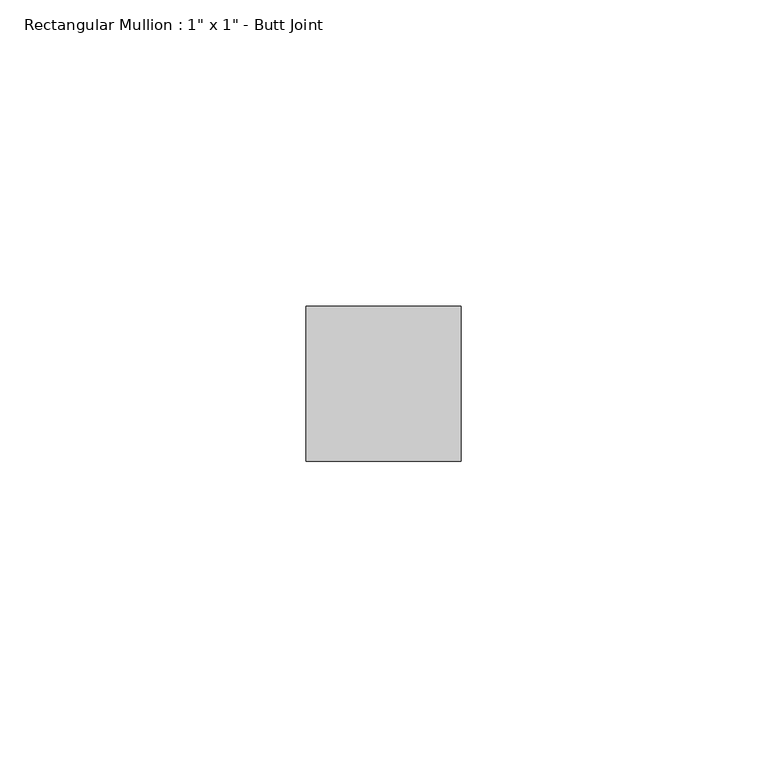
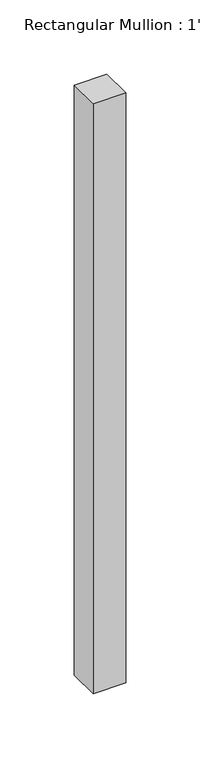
"""IFC4 building model written with IfcOpenShell, lengths in millimetres: member geometry."""

from ifc_helpers import new_model, si_unit, frame, origin, place, context, project, spatial, polyline, outline, extrude, source, transform, mapped, element, save


def member_fd592df6(model_context):
    return source(origin(), model_context, "Body", "SweptSolid", [
        extrude(outline(polyline([(12.7, 12.7), (12.7, -12.7), (-12.7, -12.7), (-12.7, 12.7), (12.7, 12.7)])), frame((0.0, 0.0, -485.14), z_axis=(0.0, 0.0, 1.0), x_axis=(1.0, 0.0, 0.0)), (0.0, 0.0, 1.0), 485.14),
    ])


if __name__ == "__main__":
    model = new_model("IFC4")
    model_context = context("Model", 3, world=origin())
    ifc_project = project(units=[si_unit("LENGTHUNIT", "METRE", prefix="MILLI")], contexts=[model_context])
    site = spatial("IfcSite", under=ifc_project)
    building = spatial("IfcBuilding", under=site)
    placement = place(None, origin())
    member_shape = member_fd592df6(model_context)
    element("IfcMember", 1, ObjectType="Rectangular Mullion : 1\" x 1\" - Butt Joint", at=placement, inside=building, context=model_context, shape_type="MappedRepresentation", body=[
        mapped(member_shape, transform((0.0, 0.0, 0.0), x_axis=(1.0, 0.0, 0.0), y_axis=(0.0, 1.0, 0.0), z_axis=(0.0, 0.0, 1.0))),
    ])
    save(model, "model.ifc")
